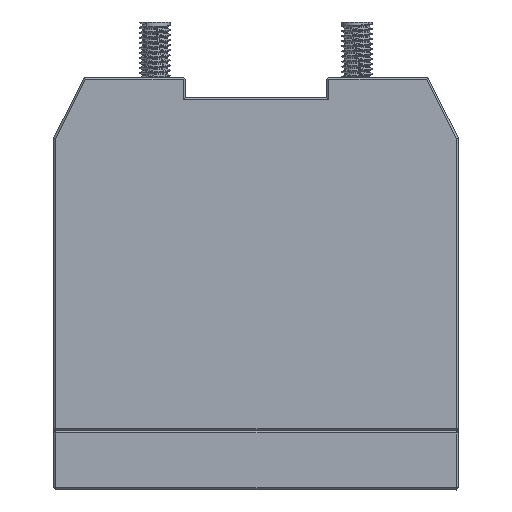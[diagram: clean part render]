
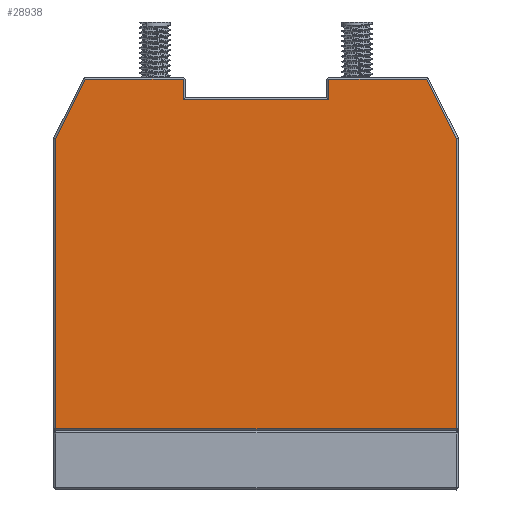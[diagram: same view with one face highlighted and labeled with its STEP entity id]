
A CAD part, top view. The second image highlights one B-rep face of the part: STEP entity #28938.
In plain terms, the highlighted planar face has unit normal (0, 0, 1).
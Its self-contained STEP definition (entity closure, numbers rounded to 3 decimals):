
#141 = ORIENTED_EDGE ( 'NONE', *, *, #23613, .T. ) ;
#581 = VERTEX_POINT ( 'NONE', #24569 ) ;
#1094 = DIRECTION ( 'NONE',  ( 1., 0., 0. ) ) ;
#2572 = EDGE_CURVE ( 'NONE', #27621, #7413, #29370, .T. ) ;
#2757 = CARTESIAN_POINT ( 'NONE',  ( -37.144, 7.529, 52.85 ) ) ;
#3084 = VECTOR ( 'NONE', #13570, 1000. ) ;
#3108 = LINE ( 'NONE', #15288, #8592 ) ;
#3551 = DIRECTION ( 'NONE',  ( -1., 0., 0. ) ) ;
#3751 = EDGE_CURVE ( 'NONE', #17043, #7055, #6284, .T. ) ;
#4440 = ORIENTED_EDGE ( 'NONE', *, *, #22390, .T. ) ;
#4630 = CARTESIAN_POINT ( 'NONE',  ( -34.221, 25.829, 52.85 ) ) ;
#5484 = DIRECTION ( 'NONE',  ( 0., -1., 0. ) ) ;
#5494 = CARTESIAN_POINT ( 'NONE',  ( -17.344, 25.829, 52.85 ) ) ;
#5713 = PLANE ( 'NONE',  #19098 ) ;
#6284 = LINE ( 'NONE', #6808, #11830 ) ;
#6808 = CARTESIAN_POINT ( 'NONE',  ( -17.344, 23.829, 52.85 ) ) ;
#6849 = DIRECTION ( 'NONE',  ( -1., 0., 0. ) ) ;
#6919 = CARTESIAN_POINT ( 'NONE',  ( -10.144, 23.829, 52.85 ) ) ;
#7055 = VERTEX_POINT ( 'NONE', #9277 ) ;
#7413 = VERTEX_POINT ( 'NONE', #21178 ) ;
#7996 = CARTESIAN_POINT ( 'NONE',  ( 2.456, 19.981, 52.85 ) ) ;
#8592 = VECTOR ( 'NONE', #3551, 1000. ) ;
#8791 = LINE ( 'NONE', #27532, #20515 ) ;
#9277 = CARTESIAN_POINT ( 'NONE',  ( -24.544, 23.829, 52.85 ) ) ;
#9292 = LINE ( 'NONE', #5494, #26455 ) ;
#9307 = LINE ( 'NONE', #18169, #3084 ) ;
#10356 = DIRECTION ( 'NONE',  ( -0.447, 0.894, 0. ) ) ;
#11096 = LINE ( 'NONE', #4630, #23465 ) ;
#11455 = ORIENTED_EDGE ( 'NONE', *, *, #18583, .T. ) ;
#11764 = LINE ( 'NONE', #7996, #17977 ) ;
#11830 = VECTOR ( 'NONE', #6849, 1000. ) ;
#11843 = ORIENTED_EDGE ( 'NONE', *, *, #29443, .T. ) ;
#11890 = ORIENTED_EDGE ( 'NONE', *, *, #3751, .T. ) ;
#12015 = VERTEX_POINT ( 'NONE', #15336 ) ;
#12035 = LINE ( 'NONE', #19818, #29894 ) ;
#12298 = CARTESIAN_POINT ( 'NONE',  ( -0.468, 25.829, 52.85 ) ) ;
#12612 = CARTESIAN_POINT ( 'NONE',  ( 2.456, -8.771, 52.85 ) ) ;
#12871 = DIRECTION ( 'NONE',  ( 0., -1., 0. ) ) ;
#13570 = DIRECTION ( 'NONE',  ( 1., 0., 0. ) ) ;
#13708 = VERTEX_POINT ( 'NONE', #28641 ) ;
#14675 = VECTOR ( 'NONE', #26710, 1000. ) ;
#14967 = ORIENTED_EDGE ( 'NONE', *, *, #15233, .T. ) ;
#15193 = DIRECTION ( 'NONE',  ( 0., 0., 1. ) ) ;
#15233 = EDGE_CURVE ( 'NONE', #7055, #581, #21574, .T. ) ;
#15288 = CARTESIAN_POINT ( 'NONE',  ( -17.344, 25.829, 52.85 ) ) ;
#15336 = CARTESIAN_POINT ( 'NONE',  ( -10.144, 25.829, 52.85 ) ) ;
#15485 = FACE_OUTER_BOUND ( 'NONE', #22994, .T. ) ;
#15922 = EDGE_CURVE ( 'NONE', #26608, #22353, #11764, .T. ) ;
#16161 = ORIENTED_EDGE ( 'NONE', *, *, #24438, .T. ) ;
#17043 = VERTEX_POINT ( 'NONE', #6919 ) ;
#17977 = VECTOR ( 'NONE', #10356, 1000. ) ;
#18169 = CARTESIAN_POINT ( 'NONE',  ( -17.344, -8.771, 52.85 ) ) ;
#18375 = DIRECTION ( 'NONE',  ( 0., 1., 0. ) ) ;
#18583 = EDGE_CURVE ( 'NONE', #12015, #17043, #12035, .T. ) ;
#18687 = DIRECTION ( 'NONE',  ( -0.447, -0.894, 0. ) ) ;
#18777 = VERTEX_POINT ( 'NONE', #12612 ) ;
#19098 = AXIS2_PLACEMENT_3D ( 'NONE', #29124, #15193, #1094 ) ;
#19567 = DIRECTION ( 'NONE',  ( -1., 0., 0. ) ) ;
#19728 = CARTESIAN_POINT ( 'NONE',  ( -24.544, 7.529, 52.85 ) ) ;
#19818 = CARTESIAN_POINT ( 'NONE',  ( -10.144, 7.529, 52.85 ) ) ;
#20515 = VECTOR ( 'NONE', #18375, 1000. ) ;
#20705 = ORIENTED_EDGE ( 'NONE', *, *, #27576, .T. ) ;
#21178 = CARTESIAN_POINT ( 'NONE',  ( -37.144, -8.771, 52.85 ) ) ;
#21574 = LINE ( 'NONE', #19728, #14675 ) ;
#21802 = ORIENTED_EDGE ( 'NONE', *, *, #2572, .T. ) ;
#22353 = VERTEX_POINT ( 'NONE', #12298 ) ;
#22390 = EDGE_CURVE ( 'NONE', #581, #13708, #9292, .T. ) ;
#22994 = EDGE_LOOP ( 'NONE', ( #141, #11455, #11890, #14967, #4440, #20705, #21802, #16161, #11843, #29700 ) ) ;
#23116 = VECTOR ( 'NONE', #5484, 1000. ) ;
#23465 = VECTOR ( 'NONE', #18687, 1000. ) ;
#23613 = EDGE_CURVE ( 'NONE', #22353, #12015, #3108, .T. ) ;
#24438 = EDGE_CURVE ( 'NONE', #7413, #18777, #9307, .T. ) ;
#24569 = CARTESIAN_POINT ( 'NONE',  ( -24.544, 25.829, 52.85 ) ) ;
#25357 = CARTESIAN_POINT ( 'NONE',  ( 2.456, 19.981, 52.85 ) ) ;
#26455 = VECTOR ( 'NONE', #19567, 1000. ) ;
#26608 = VERTEX_POINT ( 'NONE', #25357 ) ;
#26710 = DIRECTION ( 'NONE',  ( 0., 1., 0. ) ) ;
#27532 = CARTESIAN_POINT ( 'NONE',  ( 2.456, 7.529, 52.85 ) ) ;
#27576 = EDGE_CURVE ( 'NONE', #13708, #27621, #11096, .T. ) ;
#27621 = VERTEX_POINT ( 'NONE', #28137 ) ;
#28137 = CARTESIAN_POINT ( 'NONE',  ( -37.144, 19.981, 52.85 ) ) ;
#28641 = CARTESIAN_POINT ( 'NONE',  ( -34.221, 25.829, 52.85 ) ) ;
#28938 = ADVANCED_FACE ( 'NONE', ( #15485 ), #5713, .T. ) ;
#29124 = CARTESIAN_POINT ( 'NONE',  ( -17.344, 7.529, 52.85 ) ) ;
#29370 = LINE ( 'NONE', #2757, #23116 ) ;
#29443 = EDGE_CURVE ( 'NONE', #18777, #26608, #8791, .T. ) ;
#29700 = ORIENTED_EDGE ( 'NONE', *, *, #15922, .T. ) ;
#29894 = VECTOR ( 'NONE', #12871, 1000. ) ;
